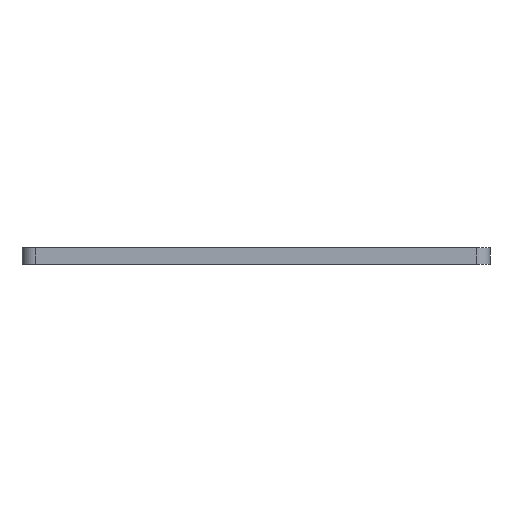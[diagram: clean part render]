
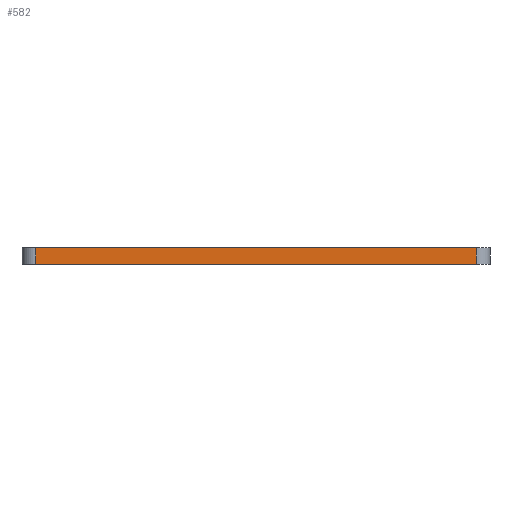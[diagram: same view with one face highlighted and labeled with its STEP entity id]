
A CAD part, front view. The second image highlights one B-rep face of the part: STEP entity #582.
In plain terms, the highlighted planar face has unit normal (0, -1, 0).
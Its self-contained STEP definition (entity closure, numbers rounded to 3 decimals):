
#45 = VERTEX_POINT ( 'NONE', #791 ) ;
#52 = CARTESIAN_POINT ( 'NONE',  ( 0., 34.855, 0. ) ) ;
#53 = CARTESIAN_POINT ( 'NONE',  ( 0., 34.855, 3. ) ) ;
#59 = DIRECTION ( 'NONE',  ( 0., 0., -1. ) ) ;
#75 = CARTESIAN_POINT ( 'NONE',  ( 0., 34.855, 3. ) ) ;
#93 = VECTOR ( 'NONE', #224, 1000. ) ;
#108 = EDGE_CURVE ( 'NONE', #392, #541, #259, .T. ) ;
#120 = DIRECTION ( 'NONE',  ( 1., 0., 0. ) ) ;
#123 = DIRECTION ( 'NONE',  ( 0., 0., -1. ) ) ;
#143 = VECTOR ( 'NONE', #123, 1000. ) ;
#148 = DIRECTION ( 'NONE',  ( 0., 1., 0. ) ) ;
#219 = ORIENTED_EDGE ( 'NONE', *, *, #679, .F. ) ;
#224 = DIRECTION ( 'NONE',  ( 1., 0., 0. ) ) ;
#259 = LINE ( 'NONE', #52, #93 ) ;
#315 = LINE ( 'NONE', #378, #143 ) ;
#331 = VECTOR ( 'NONE', #120, 1000. ) ;
#378 = CARTESIAN_POINT ( 'NONE',  ( -154.967, 34.855, 3. ) ) ;
#380 = CARTESIAN_POINT ( 'NONE',  ( -73.967, 34.855, 3. ) ) ;
#392 = VERTEX_POINT ( 'NONE', #455 ) ;
#419 = FACE_OUTER_BOUND ( 'NONE', #559, .T. ) ;
#455 = CARTESIAN_POINT ( 'NONE',  ( -154.967, 34.855, 0. ) ) ;
#507 = LINE ( 'NONE', #53, #331 ) ;
#512 = ORIENTED_EDGE ( 'NONE', *, *, #742, .F. ) ;
#541 = VERTEX_POINT ( 'NONE', #572 ) ;
#559 = EDGE_LOOP ( 'NONE', ( #665, #512, #219, #591 ) ) ;
#572 = CARTESIAN_POINT ( 'NONE',  ( -73.967, 34.855, 0. ) ) ;
#575 = DIRECTION ( 'NONE',  ( 0., 0., 1. ) ) ;
#582 = ADVANCED_FACE ( 'NONE', ( #419 ), #756, .F. ) ;
#591 = ORIENTED_EDGE ( 'NONE', *, *, #711, .T. ) ;
#616 = LINE ( 'NONE', #380, #755 ) ;
#631 = AXIS2_PLACEMENT_3D ( 'NONE', #75, #148, #575 ) ;
#665 = ORIENTED_EDGE ( 'NONE', *, *, #108, .T. ) ;
#679 = EDGE_CURVE ( 'NONE', #45, #740, #507, .T. ) ;
#711 = EDGE_CURVE ( 'NONE', #45, #392, #315, .T. ) ;
#740 = VERTEX_POINT ( 'NONE', #741 ) ;
#741 = CARTESIAN_POINT ( 'NONE',  ( -73.967, 34.855, 3. ) ) ;
#742 = EDGE_CURVE ( 'NONE', #740, #541, #616, .T. ) ;
#755 = VECTOR ( 'NONE', #59, 1000. ) ;
#756 = PLANE ( 'NONE',  #631 ) ;
#791 = CARTESIAN_POINT ( 'NONE',  ( -154.967, 34.855, 3. ) ) ;
